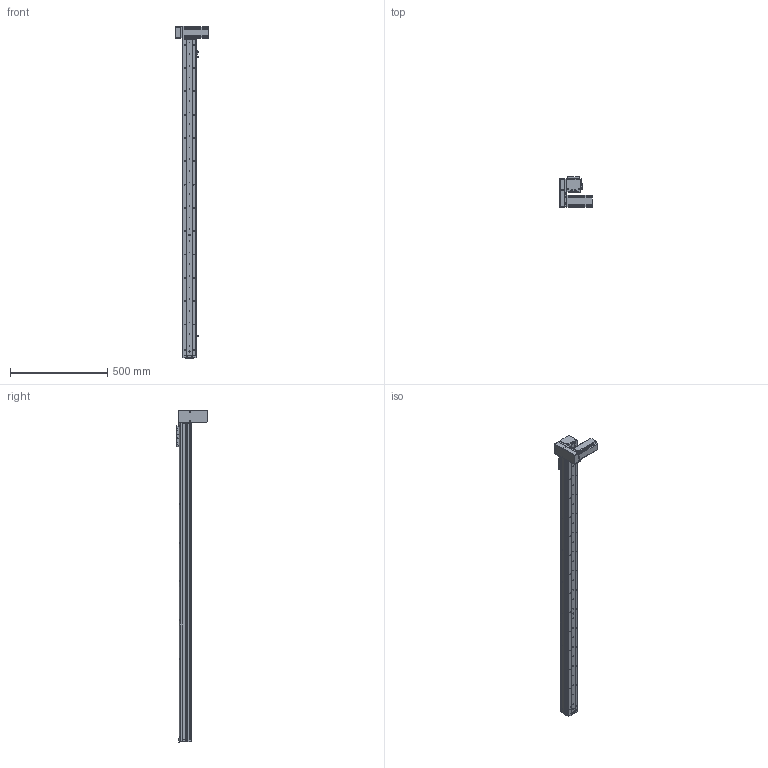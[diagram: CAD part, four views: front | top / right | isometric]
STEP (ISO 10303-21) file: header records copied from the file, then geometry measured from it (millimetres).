
FILE_DESCRIPTION (( 'STEP AP214' ), '1' );
FILE_NAME ('KSD68BS-S1450-MRD-CR.STEP', '2019-11-08T03:43:19', ( '微软用户' ), ( '微软中国' ), 'SwSTEP 2.0', 'SolidWorks 2014', '' );
FILE_SCHEMA (( 'AUTOMOTIVE_DESIGN' ));
Length unit declared in the file: millimetre
Products named in the file (14): 感应片68宽全封闭; U倰嫖萇EEㄜSX672; 台达ECMA－C20604AS伺服电机（400W); KSD68BS 1450行程底板全封闭; KSD68BS-S1450-MRD-CR; 68遵裔啣揤啣1; 68宽单导轨全封闭丝杆传动安装板1防护罩; KSD68BS 1450行程盖板全封闭; KSD68BS 1450行程侧板全封闭; 68宽单导轨全封闭同步带端板; 68单导轨全封闭同步带电机座右; 68单导轨全封闭同步带安装板; 悵誘欶奻狟殏; 68宽马达安装板连板上折同步带
Assembly tree (17 placements, depth 2):
  KSD68BS-S1450-MRD-CR
    KSD68BS 1450行程底板全封闭
    台达ECMA－C20604AS伺服电机（400W)
    U倰嫖萇EEㄜSX672  x3
    感应片68宽全封闭
    68宽马达安装板连板上折同步带
    悵誘欶奻狟殏
    68单导轨全封闭同步带安装板
    68单导轨全封闭同步带电机座右
    68宽单导轨全封闭同步带端板
    KSD68BS 1450行程侧板全封闭  x2
    68宽单导轨全封闭丝杆传动安装板1防护罩
    68遵裔啣揤啣1  x2
    KSD68BS 1450行程盖板全封闭
Bounding box: 167.2 x 155.5 x 1708.1 mm (x, y, z)
Volume: 3143334.4 mm3; surface area: 1258233.3 mm2
Topology: 18 solids, 18 shells, 1590 faces, 4567 edges, 2911 vertices
Faces by surface type: cylinder 775, plane 631, cone 184
Entity records: 51506 total; most frequent: CARTESIAN_POINT 8901, DIRECTION 7683, ORIENTED_EDGE 7346, EDGE_CURVE 3673, AXIS2_PLACEMENT_3D 2795, VERTEX_POINT 2409, LINE 2093, VECTOR 2093
